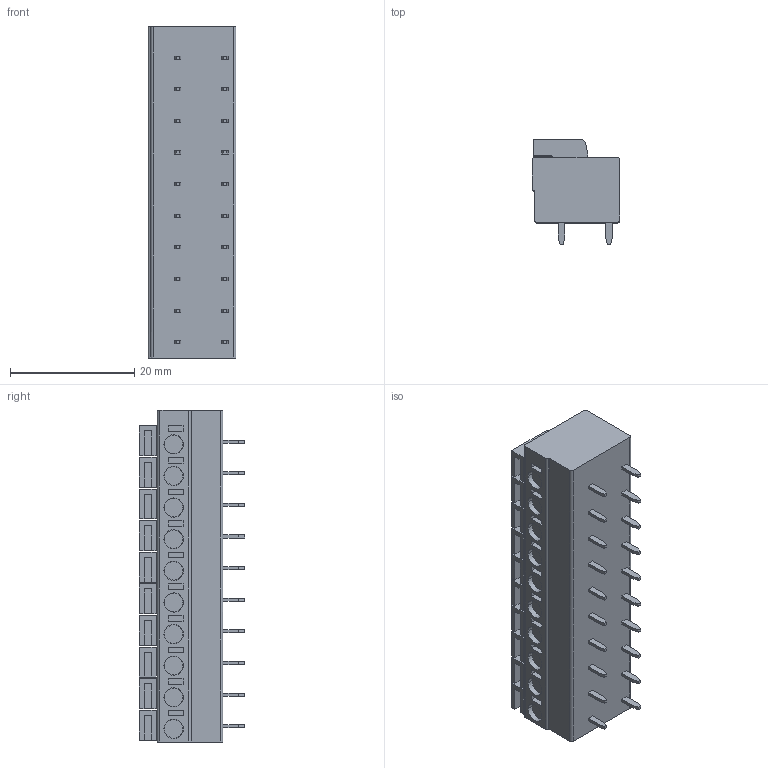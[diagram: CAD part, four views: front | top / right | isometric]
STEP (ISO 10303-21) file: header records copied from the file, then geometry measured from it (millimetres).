
FILE_DESCRIPTION((''),'2;1');
FILE_NAME('10','2020-06-12T',('P'),(''),'PRO/ENGINEER BY PARAMETRIC TECHNOLOGY CORPORATION, 2010280','PRO/ENGINEER BY PARAMETRIC TECHNOLOGY CORPORATION, 2010280','');
FILE_SCHEMA(('CONFIG_CONTROL_DESIGN'));
Length unit declared in the file: millimetre
Products named in the file (1): 10
Bounding box: 14.1 x 16.9 x 53.34 mm (x, y, z)
Volume: 8369.4 mm3; surface area: 4617.2 mm2
Topology: 1 solids, 11 shells, 484 faces, 1357 edges, 945 vertices
Faces by surface type: plane 409, cylinder 55, cone 20
Entity records: 15677 total; most frequent: CARTESIAN_POINT 2929, ORIENTED_EDGE 2714, DIRECTION 2469, EDGE_CURVE 1357, VECTOR 1139, LINE 1139, VERTEX_POINT 945, AXIS2_PLACEMENT_3D 665
